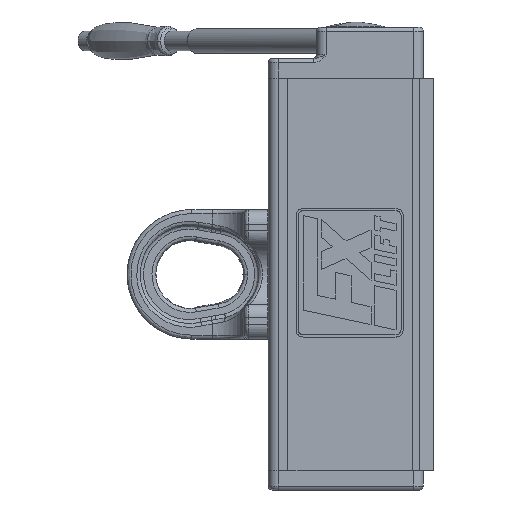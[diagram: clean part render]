
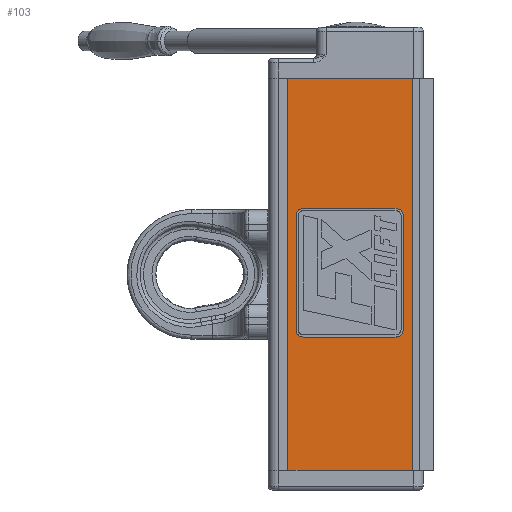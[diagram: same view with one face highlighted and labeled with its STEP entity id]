
A CAD part, left-side view. The second image highlights one B-rep face of the part: STEP entity #103.
In plain terms, the highlighted planar face has unit normal (-1, 0, 0).
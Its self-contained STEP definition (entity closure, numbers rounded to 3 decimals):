
#103=ADVANCED_FACE('NONE',(#884,#885),#886,.F.);
#884=FACE_OUTER_BOUND('',#2867,.T.);
#885=FACE_BOUND('',#2868,.T.);
#886=PLANE('',#2869);
#2867=EDGE_LOOP('',(#12304,#12305,#12306,#12307));
#2868=EDGE_LOOP('',(#12308,#12309,#12310,#12311,#12312,#12313,#12314,#12315));
#2869=AXIS2_PLACEMENT_3D('',#12316,#12317,#12318);
#12304=ORIENTED_EDGE('',*,*,#17589,.T.);
#12305=ORIENTED_EDGE('',*,*,#17590,.F.);
#12306=ORIENTED_EDGE('',*,*,#17591,.F.);
#12307=ORIENTED_EDGE('',*,*,#17592,.T.);
#12308=ORIENTED_EDGE('',*,*,#17593,.T.);
#12309=ORIENTED_EDGE('',*,*,#17594,.T.);
#12310=ORIENTED_EDGE('',*,*,#17595,.T.);
#12311=ORIENTED_EDGE('',*,*,#17596,.T.);
#12312=ORIENTED_EDGE('',*,*,#17597,.T.);
#12313=ORIENTED_EDGE('',*,*,#17598,.T.);
#12314=ORIENTED_EDGE('',*,*,#17599,.T.);
#12315=ORIENTED_EDGE('',*,*,#17600,.T.);
#12316=CARTESIAN_POINT('',(-112.0,0.0,200.0));
#12317=DIRECTION('',(1.0,-0.0,0.0));
#12318=DIRECTION('',(0.0,1.0,-0.0));
#17589=EDGE_CURVE('NONE',#19671,#19672,#19673,.T.);
#17590=EDGE_CURVE('NONE',#19674,#19672,#19675,.T.);
#17591=EDGE_CURVE('NONE',#19676,#19674,#19677,.T.);
#17592=EDGE_CURVE('NONE',#19676,#19671,#19678,.T.);
#17593=EDGE_CURVE('NONE',#19679,#19680,#19681,.T.);
#17594=EDGE_CURVE('NONE',#19680,#19682,#19683,.T.);
#17595=EDGE_CURVE('NONE',#19682,#19684,#19685,.T.);
#17596=EDGE_CURVE('NONE',#19684,#19686,#19687,.T.);
#17597=EDGE_CURVE('NONE',#19686,#19688,#19689,.T.);
#17598=EDGE_CURVE('NONE',#19688,#19690,#19691,.T.);
#17599=EDGE_CURVE('NONE',#19690,#19692,#19693,.T.);
#17600=EDGE_CURVE('NONE',#19692,#19679,#19694,.T.);
#19671=VERTEX_POINT('NONE',#23983);
#19672=VERTEX_POINT('NONE',#23984);
#19673=LINE('',#23985,#23986);
#19674=VERTEX_POINT('NONE',#23987);
#19675=LINE('',#23988,#23989);
#19676=VERTEX_POINT('NONE',#23990);
#19677=LINE('',#23991,#23992);
#19678=LINE('',#23993,#23994);
#19679=VERTEX_POINT('NONE',#23995);
#19680=VERTEX_POINT('NONE',#23996);
#19681=B_SPLINE_CURVE_WITH_KNOTS('',3,(#23997,#23998,#23999,#24000),.UNSPECIFIED.,.F.,.F.,(4,4),(0.778,1.0),.UNSPECIFIED.);
#19682=VERTEX_POINT('NONE',#24001);
#19683=LINE('',#24002,#24003);
#19684=VERTEX_POINT('NONE',#24004);
#19685=B_SPLINE_CURVE_WITH_KNOTS('',3,(#24005,#24006,#24007,#24008),.UNSPECIFIED.,.F.,.F.,(4,4),(0.111,0.222),.UNSPECIFIED.);
#19686=VERTEX_POINT('NONE',#24009);
#19687=LINE('',#24010,#24011);
#19688=VERTEX_POINT('NONE',#24012);
#19689=B_SPLINE_CURVE_WITH_KNOTS('',3,(#24013,#24014,#24015,#24016),.UNSPECIFIED.,.F.,.F.,(4,4),(0.333,0.444),.UNSPECIFIED.);
#19690=VERTEX_POINT('NONE',#24017);
#19691=LINE('',#24018,#24019);
#19692=VERTEX_POINT('NONE',#24020);
#19693=B_SPLINE_CURVE_WITH_KNOTS('',3,(#24021,#24022,#24023,#24024),.UNSPECIFIED.,.F.,.F.,(4,4),(0.556,0.667),.UNSPECIFIED.);
#19694=LINE('',#24025,#24026);
#23983=CARTESIAN_POINT('',(-112.0,69.0,-200.0));
#23984=CARTESIAN_POINT('',(-112.0,-59.5,-200.0));
#23985=CARTESIAN_POINT('',(-112.0,0.0,-200.0));
#23986=VECTOR('',#33426,1000.0);
#23987=CARTESIAN_POINT('',(-112.0,-59.5,200.0));
#23988=CARTESIAN_POINT('',(-112.0,-59.5,200.0));
#23989=VECTOR('',#33427,1000.0);
#23990=CARTESIAN_POINT('',(-112.0,69.0,200.0));
#23991=CARTESIAN_POINT('',(-112.0,0.0,200.0));
#23992=VECTOR('',#33428,1000.0);
#23993=CARTESIAN_POINT('',(-112.0,69.0,200.0));
#23994=VECTOR('',#33429,1000.0);
#23995=CARTESIAN_POINT('',(-112.0,53.475,-63.947));
#23996=CARTESIAN_POINT('',(-112.0,60.762,-56.661));
#23997=CARTESIAN_POINT('',(-112.0,53.475,-63.947));
#23998=CARTESIAN_POINT('',(-112.0,57.483,-63.947));
#23999=CARTESIAN_POINT('',(-112.0,60.762,-60.668));
#24000=CARTESIAN_POINT('',(-112.0,60.762,-56.661));
#24001=CARTESIAN_POINT('',(-112.0,60.762,59.925));
#24002=CARTESIAN_POINT('',(-112.0,60.762,0.));
#24003=VECTOR('',#33430,1000.0);
#24004=CARTESIAN_POINT('',(-112.0,53.475,67.212));
#24005=CARTESIAN_POINT('',(-112.0,60.762,59.925));
#24006=CARTESIAN_POINT('',(-112.0,60.762,63.933));
#24007=CARTESIAN_POINT('',(-112.0,57.483,67.212));
#24008=CARTESIAN_POINT('',(-112.0,53.475,67.212));
#24009=CARTESIAN_POINT('',(-112.0,-41.251,67.212));
#24010=CARTESIAN_POINT('',(-112.0,0.0,67.212));
#24011=VECTOR('',#33431,1000.0);
#24012=CARTESIAN_POINT('',(-112.0,-48.537,59.925));
#24013=CARTESIAN_POINT('',(-112.0,-41.251,67.212));
#24014=CARTESIAN_POINT('',(-112.0,-45.258,67.212));
#24015=CARTESIAN_POINT('',(-112.0,-48.537,63.933));
#24016=CARTESIAN_POINT('',(-112.0,-48.537,59.925));
#24017=CARTESIAN_POINT('',(-112.0,-48.537,-56.661));
#24018=CARTESIAN_POINT('',(-112.0,-48.537,0.));
#24019=VECTOR('',#33432,1000.0);
#24020=CARTESIAN_POINT('',(-112.0,-41.251,-63.947));
#24021=CARTESIAN_POINT('',(-112.0,-48.537,-56.661));
#24022=CARTESIAN_POINT('',(-112.0,-48.537,-60.668));
#24023=CARTESIAN_POINT('',(-112.0,-45.258,-63.947));
#24024=CARTESIAN_POINT('',(-112.0,-41.251,-63.947));
#24025=CARTESIAN_POINT('',(-112.0,0.0,-63.947));
#24026=VECTOR('',#33433,1000.0);
#33426=DIRECTION('',(0.0,-1.0,0.0));
#33427=DIRECTION('',(-0.0,-0.0,-1.0));
#33428=DIRECTION('',(0.0,-1.0,0.0));
#33429=DIRECTION('',(-0.0,-0.0,-1.0));
#33430=DIRECTION('',(0.0,0.,1.0));
#33431=DIRECTION('',(0.0,-1.0,0.0));
#33432=DIRECTION('',(0.0,0.,-1.0));
#33433=DIRECTION('',(0.0,1.0,0.0));
